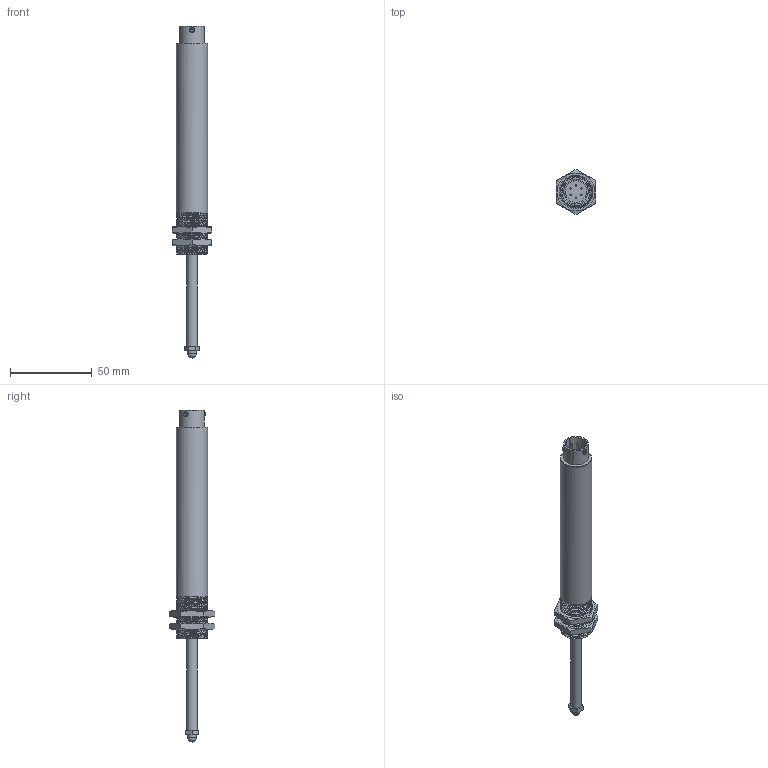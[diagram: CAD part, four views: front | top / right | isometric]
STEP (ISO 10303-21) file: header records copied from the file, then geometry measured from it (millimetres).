
FILE_DESCRIPTION(/* description */ (''),/* implementation_level */ '2;1');
FILE_NAME(/* name */ 'ILPS-18S-050-A-02-YY-Z.stp',/* time_stamp */ '2026-01-27T15:13:32-05:00',/* author */ ('wingm'),/* organization */ (''),/* preprocessor_version */ 'ST-DEVELOPER v20.1',/* originating_system */ 'Autodesk Inventor 2026',/* authorisation */ '');
FILE_SCHEMA (('AUTOMOTIVE_DESIGN { 1 0 10303 214 3 1 1 }'));
Length unit declared in the file: inch
Products named in the file (8): AAA; Body; End Cap; Shaft; Lining; PT02-10; Hex Nut; #9540
Assembly tree (8 placements, depth 2):
  AAA
    Body
    End Cap
    Shaft
    Lining
    PT02-10
    Hex Nut  x2
    #9540
Bounding box: 24 x 27.71 x 202.69 mm (x, y, z)
Volume: 11886.1 mm3; surface area: 24276.1 mm2
Topology: 15 solids, 15 shells, 168 faces, 364 edges, 242 vertices
Faces by surface type: plane 75, cylinder 69, cone 10, bspline 10, torus 3, sphere 1
Full cylindrical faces by diameter (mm): 0.762 x6, 1.905 x1, 2.032 x3, 2.845 x3, 3.048 x3, 5.08 x1, 6.35 x2, 6.858 x2, 13.208 x1, 14.986 x1, 17.069 x3, 18.415 x2, 19.05 x28
Entity records: 9522 total; most frequent: CARTESIAN_POINT 6001, ORIENTED_EDGE 632, DIRECTION 630, EDGE_CURVE 316, AXIS2_PLACEMENT_3D 249, VERTEX_POINT 211, EDGE_LOOP 171, FACE_OUTER_BOUND 149
